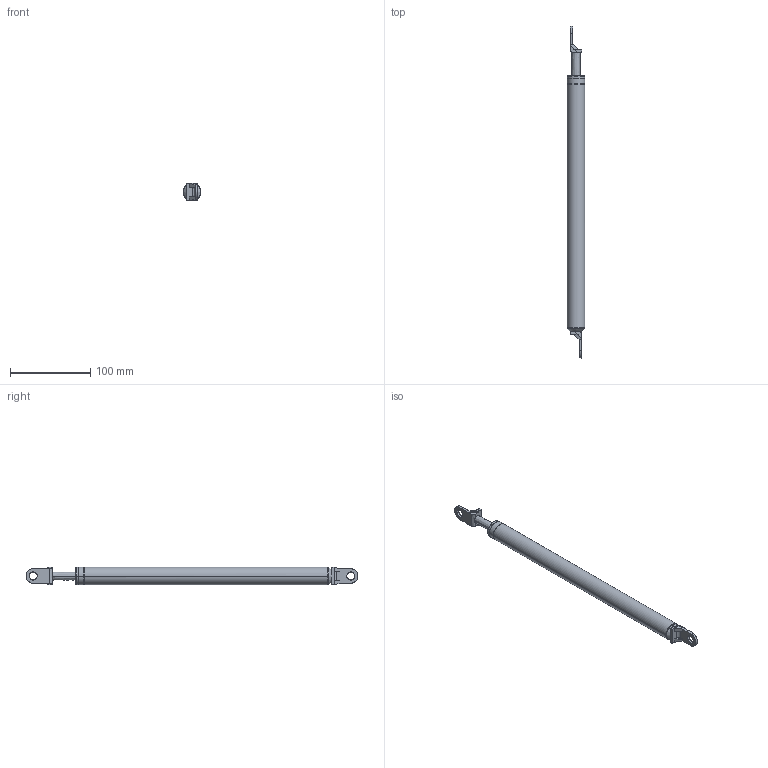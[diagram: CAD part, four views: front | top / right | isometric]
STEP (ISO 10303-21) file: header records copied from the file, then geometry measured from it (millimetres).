
FILE_DESCRIPTION(/* description */ (''),/* implementation_level */ '2;1');
FILE_NAME(/* name */ '4.frame-door#4.5#FGSS22150B',/* time_stamp */ '2014-12-01T20:12:48+01:00',/* author */ (''),/* organization */ (''),/* preprocessor_version */ 'ST-DEVELOPER v14',/* originating_system */ '',/* authorisation */ '');
FILE_SCHEMA (('AUTOMOTIVE_DESIGN'));
Length unit declared in the file: millimetre
Products named in the file (2): Document; FGSS22150B
Assembly tree (1 placements, depth 2):
  Document
    FGSS22150B
Bounding box: 22 x 413.99 x 22 mm (x, y, z)
Surface area: 38244.7 mm2 (no closed solid volume)
Topology: 0 solids, 85 shells, 85 faces, 238 edges, 238 vertices
Faces by surface type: plane 51, bspline 34
Entity records: 6655 total; most frequent: CARTESIAN_POINT 3499, B_SPLINE_CURVE_WITH_KNOTS 310, ORIENTED_EDGE 238, PCURVE 238, DEFINITIONAL_REPRESENTATION 238, SURFACE_CURVE 238, EDGE_CURVE 238, VERTEX_POINT 238
